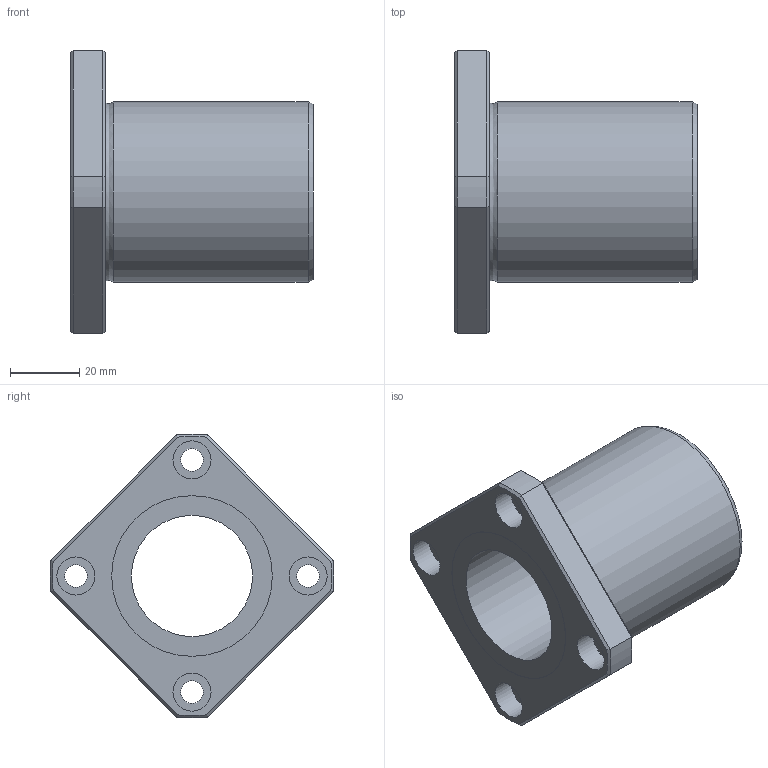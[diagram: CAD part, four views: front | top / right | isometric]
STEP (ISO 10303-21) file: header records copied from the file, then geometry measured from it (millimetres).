
FILE_DESCRIPTION((''),'2;1');
FILE_NAME('D:\製品 (図面)\カタログ用3D\リニアベアリング関連\STEP形式\LFK\LFK35.stp','2010-06-04T08:50:32',('Tsuchiya'),(''),'Autodesk Inventor 10','Autodesk Inventor 10','');
FILE_SCHEMA(('AUTOMOTIVE_DESIGN { 1 0 10303 214 1 1 1 1 }'));
Length unit declared in the file: millimetre
Products named in the file (1): LFK35
Bounding box: 70 x 81.94 x 81.94 mm (x, y, z)
Volume: 96857.8 mm3; surface area: 26723.9 mm2
Topology: 1 solids, 1 shells, 47 faces, 96 edges, 58 vertices
Faces by surface type: plane 21, cylinder 16, cone 8, torus 1, bspline 1
Full cylindrical faces by diameter (mm): 6.6 x4, 11 x4, 35 x1, 46.4 x2, 52 x1
Entity records: 1275 total; most frequent: CARTESIAN_POINT 298, DIRECTION 202, ORIENTED_EDGE 164, AXIS2_PLACEMENT_3D 89, EDGE_CURVE 82, EDGE_LOOP 78, VERTEX_POINT 58, FACE_OUTER_BOUND 47
